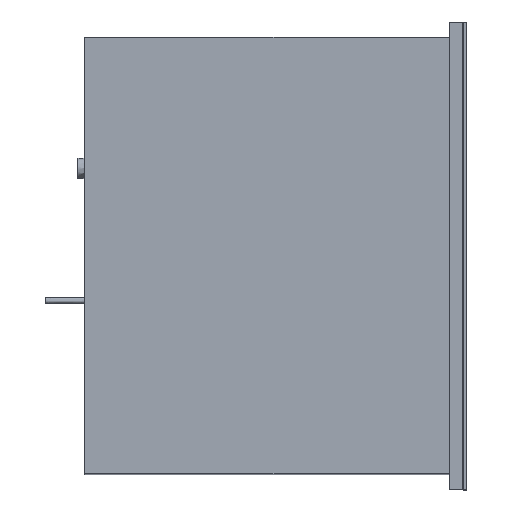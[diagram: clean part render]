
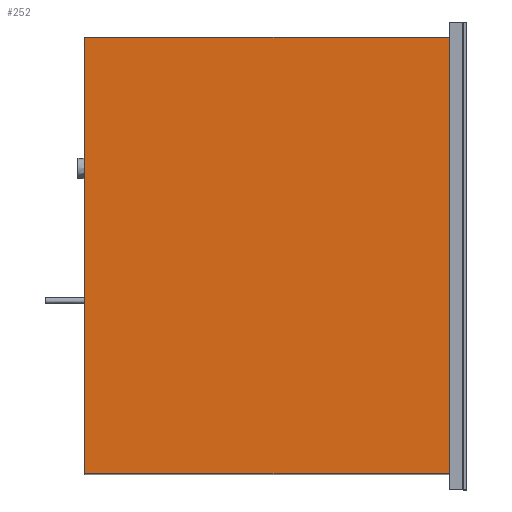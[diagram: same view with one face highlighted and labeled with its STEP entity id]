
A CAD part, top view. The second image highlights one B-rep face of the part: STEP entity #252.
In plain terms, the highlighted free-form (B-spline) face has degree [1, 1] with [2, 2] control points.
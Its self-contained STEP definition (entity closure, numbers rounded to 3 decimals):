
#252=ADVANCED_FACE('',(#356),#1336,.T.);
#356=FACE_OUTER_BOUND('',#463,.T.);
#463=EDGE_LOOP('',(#861,#862,#863,#864));
#861=ORIENTED_EDGE('',*,*,#1091,.F.);
#862=ORIENTED_EDGE('',*,*,#1083,.T.);
#863=ORIENTED_EDGE('',*,*,#1093,.T.);
#864=ORIENTED_EDGE('',*,*,#1094,.F.);
#1083=EDGE_CURVE('',#1225,#1227,#1534,.T.);
#1091=EDGE_CURVE('',#1225,#1234,#1542,.T.);
#1093=EDGE_CURVE('',#1227,#1235,#1544,.T.);
#1094=EDGE_CURVE('',#1234,#1235,#1545,.T.);
#1225=VERTEX_POINT('',#6079);
#1227=VERTEX_POINT('',#6081);
#1234=VERTEX_POINT('',#6088);
#1235=VERTEX_POINT('',#6089);
#1336=B_SPLINE_SURFACE_WITH_KNOTS('',1,1,((#6046,#6047),(#6048,#6049)),.UNSPECIFIED.,
.F.,.F.,.F.,(2,2),(2,2),(0.,1.),(0.,1.),.UNSPECIFIED.);
#1534=B_SPLINE_CURVE_WITH_KNOTS('',1,(#5940,#5941),.UNSPECIFIED.,.F.,.F.,
(2,2),(0.,1.),.UNSPECIFIED.);
#1542=B_SPLINE_CURVE_WITH_KNOTS('',1,(#5972,#5973),.UNSPECIFIED.,.F.,.F.,
(2,2),(0.,1.),.UNSPECIFIED.);
#1544=B_SPLINE_CURVE_WITH_KNOTS('',1,(#5976,#5977),.UNSPECIFIED.,.F.,.F.,
(2,2),(0.,1.),.UNSPECIFIED.);
#1545=B_SPLINE_CURVE_WITH_KNOTS('',1,(#5978,#5979),.UNSPECIFIED.,.F.,.F.,
(2,2),(0.,1.),.UNSPECIFIED.);
#5940=CARTESIAN_POINT('',(0.,-280.981,443.));
#5941=CARTESIAN_POINT('',(0.,274.787,443.));
#5972=CARTESIAN_POINT('',(0.,-280.981,443.));
#5973=CARTESIAN_POINT('',(-463.885,-280.981,443.));
#5976=CARTESIAN_POINT('',(0.,274.787,443.));
#5977=CARTESIAN_POINT('',(-463.885,274.787,443.));
#5978=CARTESIAN_POINT('',(-463.885,-280.981,443.));
#5979=CARTESIAN_POINT('',(-463.885,274.787,443.));
#6046=CARTESIAN_POINT('',(0.,-280.981,443.));
#6047=CARTESIAN_POINT('',(-463.885,-280.981,443.));
#6048=CARTESIAN_POINT('',(0.,274.787,443.));
#6049=CARTESIAN_POINT('',(-463.885,274.787,443.));
#6079=CARTESIAN_POINT('',(0.,-280.981,443.));
#6081=CARTESIAN_POINT('',(0.,274.787,443.));
#6088=CARTESIAN_POINT('',(-463.885,-280.981,443.));
#6089=CARTESIAN_POINT('',(-463.885,274.787,443.));
